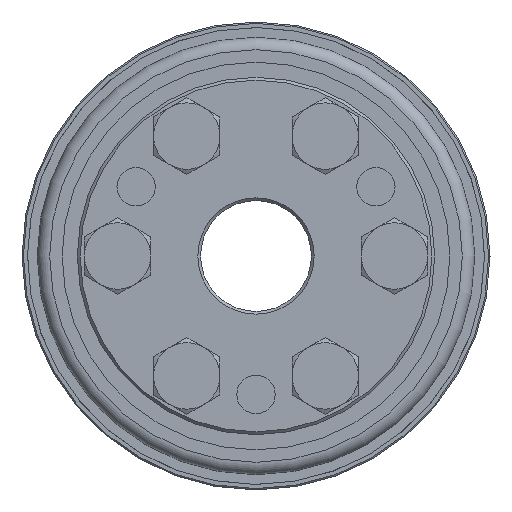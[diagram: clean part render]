
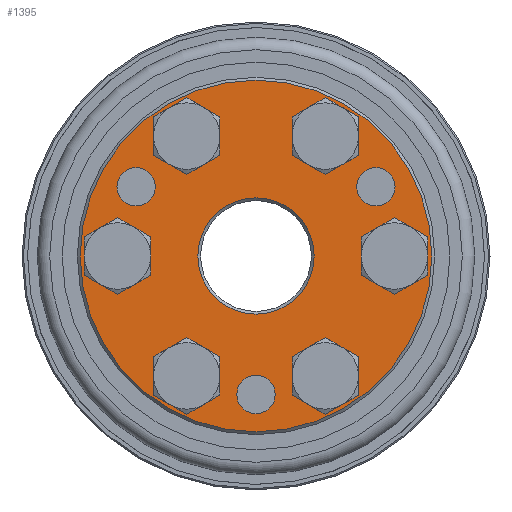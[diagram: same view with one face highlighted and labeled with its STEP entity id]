
A CAD part, left-side view. The second image highlights one B-rep face of the part: STEP entity #1395.
In plain terms, the highlighted planar face has unit normal (-1, 0, 0).
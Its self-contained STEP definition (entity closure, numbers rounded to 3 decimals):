
#1395 = ADVANCED_FACE( '', ( #2724, #2725, #2726, #2727, #2728, #2729, #2730, #2731, #2732, #2733, #2734 ), #2735, .F. );
#2724 = FACE_OUTER_BOUND( '', #3974, .T. );
#2725 = FACE_BOUND( '', #3975, .T. );
#2726 = FACE_BOUND( '', #3976, .T. );
#2727 = FACE_BOUND( '', #3977, .T. );
#2728 = FACE_BOUND( '', #3978, .T. );
#2729 = FACE_BOUND( '', #3979, .T. );
#2730 = FACE_BOUND( '', #3980, .T. );
#2731 = FACE_BOUND( '', #3981, .T. );
#2732 = FACE_BOUND( '', #3982, .T. );
#2733 = FACE_BOUND( '', #3983, .T. );
#2734 = FACE_BOUND( '', #3984, .T. );
#2735 = PLANE( '', #3985 );
#3974 = EDGE_LOOP( '', ( #5718 ) );
#3975 = EDGE_LOOP( '', ( #5719 ) );
#3976 = EDGE_LOOP( '', ( #5720 ) );
#3977 = EDGE_LOOP( '', ( #5721 ) );
#3978 = EDGE_LOOP( '', ( #5722 ) );
#3979 = EDGE_LOOP( '', ( #5723 ) );
#3980 = EDGE_LOOP( '', ( #5724 ) );
#3981 = EDGE_LOOP( '', ( #5725 ) );
#3982 = EDGE_LOOP( '', ( #5726 ) );
#3983 = EDGE_LOOP( '', ( #5727 ) );
#3984 = EDGE_LOOP( '', ( #5728 ) );
#3985 = AXIS2_PLACEMENT_3D( '', #5729, #5730, #5731 );
#5718 = ORIENTED_EDGE( '', *, *, #5970, .T. );
#5719 = ORIENTED_EDGE( '', *, *, #6512, .T. );
#5720 = ORIENTED_EDGE( '', *, *, #6331, .T. );
#5721 = ORIENTED_EDGE( '', *, *, #6566, .T. );
#5722 = ORIENTED_EDGE( '', *, *, #6525, .T. );
#5723 = ORIENTED_EDGE( '', *, *, #6000, .T. );
#5724 = ORIENTED_EDGE( '', *, *, #6354, .T. );
#5725 = ORIENTED_EDGE( '', *, *, #6564, .T. );
#5726 = ORIENTED_EDGE( '', *, *, #6556, .T. );
#5727 = ORIENTED_EDGE( '', *, *, #6090, .T. );
#5728 = ORIENTED_EDGE( '', *, *, #6224, .T. );
#5729 = CARTESIAN_POINT( '', ( 0., 0., 64.5 ) );
#5730 = DIRECTION( '', ( 1., 0., 0. ) );
#5731 = DIRECTION( '', ( 0., 1., 0. ) );
#5970 = EDGE_CURVE( '', #6634, #6634, #6635, .T. );
#6000 = EDGE_CURVE( '', #6689, #6689, #6690, .T. );
#6090 = EDGE_CURVE( '', #6839, #6839, #6840, .T. );
#6224 = EDGE_CURVE( '', #7054, #7054, #7055, .T. );
#6331 = EDGE_CURVE( '', #7209, #7209, #7210, .T. );
#6354 = EDGE_CURVE( '', #7242, #7242, #7243, .T. );
#6512 = EDGE_CURVE( '', #7455, #7455, #7456, .T. );
#6525 = EDGE_CURVE( '', #7472, #7472, #7473, .T. );
#6556 = EDGE_CURVE( '', #7513, #7513, #7514, .T. );
#6564 = EDGE_CURVE( '', #7522, #7522, #7523, .T. );
#6566 = EDGE_CURVE( '', #7525, #7525, #7526, .T. );
#6634 = VERTEX_POINT( '', #7612 );
#6635 = CIRCLE( '', #7613, 63.5 );
#6689 = VERTEX_POINT( '', #7683 );
#6690 = CIRCLE( '', #7684, 8.75 );
#6839 = VERTEX_POINT( '', #7937 );
#6840 = CIRCLE( '', #7938, 8.75 );
#7054 = VERTEX_POINT( '', #8314 );
#7055 = CIRCLE( '', #8315, 8.75 );
#7209 = VERTEX_POINT( '', #8516 );
#7210 = CIRCLE( '', #8517, 6.918 );
#7242 = VERTEX_POINT( '', #8562 );
#7243 = CIRCLE( '', #8563, 8.75 );
#7455 = VERTEX_POINT( '', #8893 );
#7456 = CIRCLE( '', #8894, 21. );
#7472 = VERTEX_POINT( '', #8910 );
#7473 = CIRCLE( '', #8911, 6.918 );
#7513 = VERTEX_POINT( '', #9025 );
#7514 = CIRCLE( '', #9026, 8.75 );
#7522 = VERTEX_POINT( '', #9034 );
#7523 = CIRCLE( '', #9035, 8.75 );
#7525 = VERTEX_POINT( '', #9037 );
#7526 = CIRCLE( '', #9038, 6.918 );
#7612 = CARTESIAN_POINT( '', ( 0., 0., -63.5 ) );
#7613 = AXIS2_PLACEMENT_3D( '', #9177, #9178, #9179 );
#7683 = CARTESIAN_POINT( '', ( 0., 35.724, 20.625 ) );
#7684 = AXIS2_PLACEMENT_3D( '', #9234, #9235, #9236 );
#7937 = CARTESIAN_POINT( '', ( 0., -35.724, 20.625 ) );
#7938 = AXIS2_PLACEMENT_3D( '', #9386, #9387, #9388 );
#8314 = CARTESIAN_POINT( '', ( 0., 0., 41.25 ) );
#8315 = AXIS2_PLACEMENT_3D( '', #9616, #9617, #9618 );
#8516 = CARTESIAN_POINT( '', ( 0., 19.009, 46.76 ) );
#8517 = AXIS2_PLACEMENT_3D( '', #9764, #9765, #9766 );
#8562 = CARTESIAN_POINT( '', ( 0., 35.724, -20.625 ) );
#8563 = AXIS2_PLACEMENT_3D( '', #9795, #9796, #9797 );
#8893 = CARTESIAN_POINT( '', ( 0., 0., -21. ) );
#8894 = AXIS2_PLACEMENT_3D( '', #9971, #9972, #9973 );
#8910 = CARTESIAN_POINT( '', ( 0., -50., -6.918 ) );
#8911 = AXIS2_PLACEMENT_3D( '', #9983, #9984, #9985 );
#9025 = CARTESIAN_POINT( '', ( 0., -35.724, -20.625 ) );
#9026 = AXIS2_PLACEMENT_3D( '', #10013, #10014, #10015 );
#9034 = CARTESIAN_POINT( '', ( 0., 0., -41.25 ) );
#9035 = AXIS2_PLACEMENT_3D( '', #10016, #10017, #10018 );
#9037 = CARTESIAN_POINT( '', ( 0., 30.991, -39.843 ) );
#9038 = AXIS2_PLACEMENT_3D( '', #10019, #10020, #10021 );
#9177 = CARTESIAN_POINT( '', ( 0., 0., 0. ) );
#9178 = DIRECTION( '', ( -1., 0., 0. ) );
#9179 = DIRECTION( '', ( 0., 0., -1. ) );
#9234 = CARTESIAN_POINT( '', ( 0., 43.301, 25. ) );
#9235 = DIRECTION( '', ( 1., 0., 0. ) );
#9236 = DIRECTION( '', ( 0., -0.866, -0.5 ) );
#9386 = CARTESIAN_POINT( '', ( 0., -43.301, 25. ) );
#9387 = DIRECTION( '', ( 1., 0., 0. ) );
#9388 = DIRECTION( '', ( 0., 0.866, -0.5 ) );
#9616 = CARTESIAN_POINT( '', ( 0., 0., 50. ) );
#9617 = DIRECTION( '', ( 1., 0., 0. ) );
#9618 = DIRECTION( '', ( 0., 0., -1. ) );
#9764 = CARTESIAN_POINT( '', ( 0., 25., 43.301 ) );
#9765 = DIRECTION( '', ( 1., 0., 0. ) );
#9766 = DIRECTION( '', ( 0., -0.866, 0.5 ) );
#9795 = CARTESIAN_POINT( '', ( 0., 43.301, -25. ) );
#9796 = DIRECTION( '', ( 1., 0., 0. ) );
#9797 = DIRECTION( '', ( 0., -0.866, 0.5 ) );
#9971 = CARTESIAN_POINT( '', ( 0., 0., 0. ) );
#9972 = DIRECTION( '', ( 1., 0., 0. ) );
#9973 = DIRECTION( '', ( 0., 0., -1. ) );
#9983 = CARTESIAN_POINT( '', ( 0., -50., 0. ) );
#9984 = DIRECTION( '', ( 1., 0., 0. ) );
#9985 = DIRECTION( '', ( 0., 0., -1. ) );
#10013 = CARTESIAN_POINT( '', ( 0., -43.301, -25. ) );
#10014 = DIRECTION( '', ( 1., 0., 0. ) );
#10015 = DIRECTION( '', ( 0., 0.866, 0.5 ) );
#10016 = CARTESIAN_POINT( '', ( 0., 0., -50. ) );
#10017 = DIRECTION( '', ( 1., 0., 0. ) );
#10018 = DIRECTION( '', ( 0., 0., 1. ) );
#10019 = CARTESIAN_POINT( '', ( 0., 25., -43.301 ) );
#10020 = DIRECTION( '', ( 1., 0., 0. ) );
#10021 = DIRECTION( '', ( 0., 0.866, 0.5 ) );
